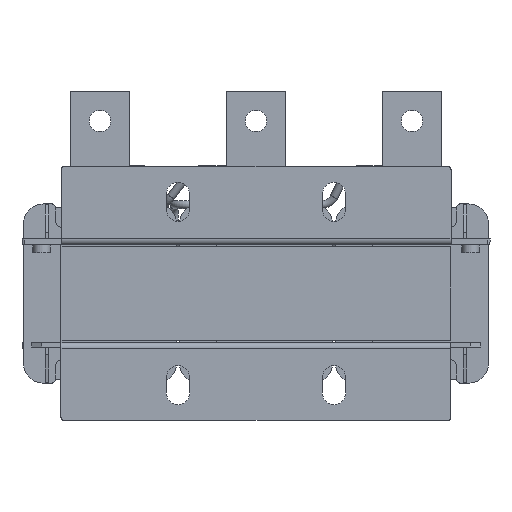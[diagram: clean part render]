
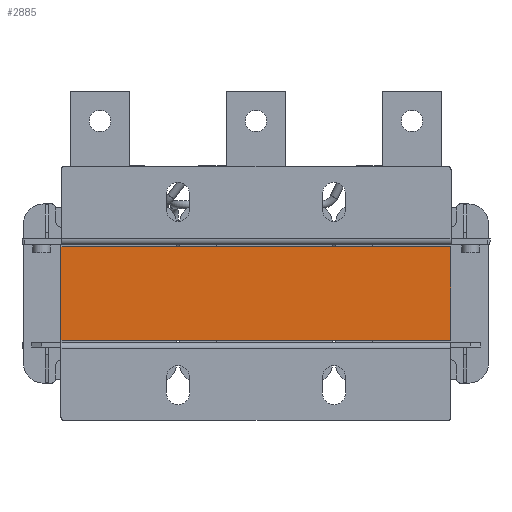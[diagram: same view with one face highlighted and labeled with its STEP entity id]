
A CAD part, front view. The second image highlights one B-rep face of the part: STEP entity #2885.
In plain terms, the highlighted planar face has unit normal (0, -1, 0).
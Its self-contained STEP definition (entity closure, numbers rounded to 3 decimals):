
#2885=ADVANCED_FACE('',(#14742),#14744,.F.);
#14742=FACE_BOUND('',#14743,.T.);
#14743=EDGE_LOOP('',(#27416,#27417,#27418,#27419));
#14744=PLANE('',#14745);
#14745=AXIS2_PLACEMENT_3D('',#14746,#14747,#14748);
#14746=CARTESIAN_POINT('',(-100.,-101.,48.));
#14747=DIRECTION('',(0.,1.,0.));
#14748=DIRECTION('',(0.,0.,1.));
#27416=ORIENTED_EDGE('',*,*,#33937,.T.);
#27417=ORIENTED_EDGE('',*,*,#33949,.F.);
#27418=ORIENTED_EDGE('',*,*,#33927,.F.);
#27419=ORIENTED_EDGE('',*,*,#33951,.T.);
#33927=EDGE_CURVE('',#37219,#37214,#37221,.T.);
#33937=EDGE_CURVE('',#37241,#37238,#37242,.T.);
#33949=EDGE_CURVE('',#37214,#37238,#37263,.T.);
#33951=EDGE_CURVE('',#37219,#37241,#37265,.T.);
#37214=VERTEX_POINT('',#42757);
#37219=VERTEX_POINT('',#42766);
#37221=LINE('',#42770,#42771);
#37238=VERTEX_POINT('',#42805);
#37241=VERTEX_POINT('',#42810);
#37242=LINE('',#42811,#42812);
#37263=LINE('',#42856,#42857);
#37265=LINE('',#42862,#42863);
#42757=CARTESIAN_POINT('',(100.,-101.,48.));
#42766=CARTESIAN_POINT('',(-100.,-101.,48.));
#42770=CARTESIAN_POINT('',(-100.,-101.,48.));
#42771=VECTOR('',#42772,1.);
#42772=DIRECTION('',(1.,0.,0.));
#42805=CARTESIAN_POINT('',(100.,-101.,0.));
#42810=CARTESIAN_POINT('',(-100.,-101.,0.));
#42811=CARTESIAN_POINT('',(-100.,-101.,0.));
#42812=VECTOR('',#42813,1.);
#42813=DIRECTION('',(1.,0.,0.));
#42856=CARTESIAN_POINT('',(100.,-101.,48.));
#42857=VECTOR('',#42858,1.);
#42858=DIRECTION('',(0.,0.,-1.));
#42862=CARTESIAN_POINT('',(-100.,-101.,48.));
#42863=VECTOR('',#42864,1.);
#42864=DIRECTION('',(0.,0.,-1.));
